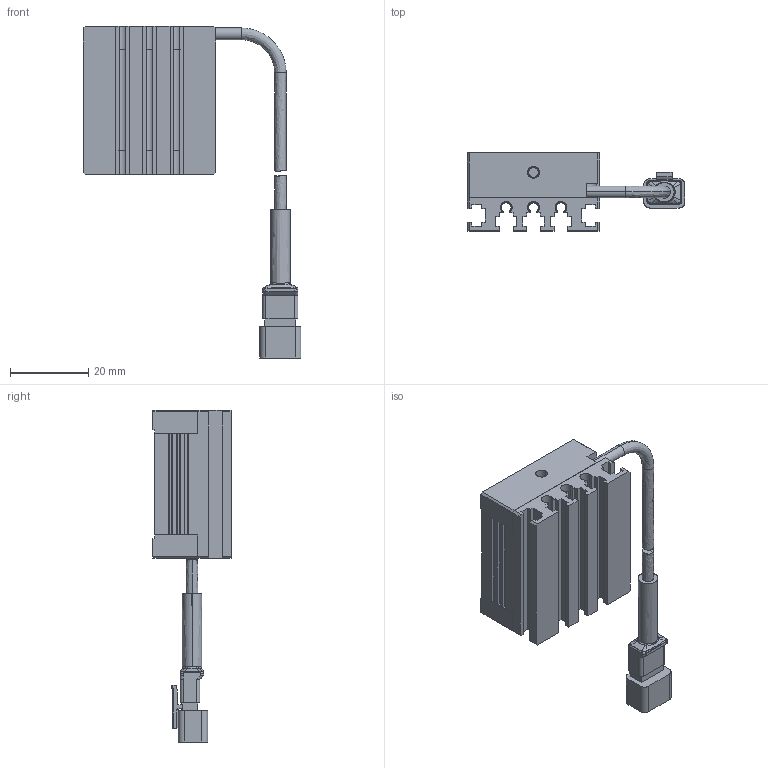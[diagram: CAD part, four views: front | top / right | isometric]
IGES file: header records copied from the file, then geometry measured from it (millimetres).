
Start section: SolidWorks IGES file using NURBS representation for surfaces
Bounding box: 55.75 x 20 x 85 mm (x, y, z)
Surface area: 15446.3 mm2 (no closed solid volume)
Topology: 0 solids, 0 shells, 481 faces, 4582 edges, 4566 vertices
Faces by surface type: bspline 481
